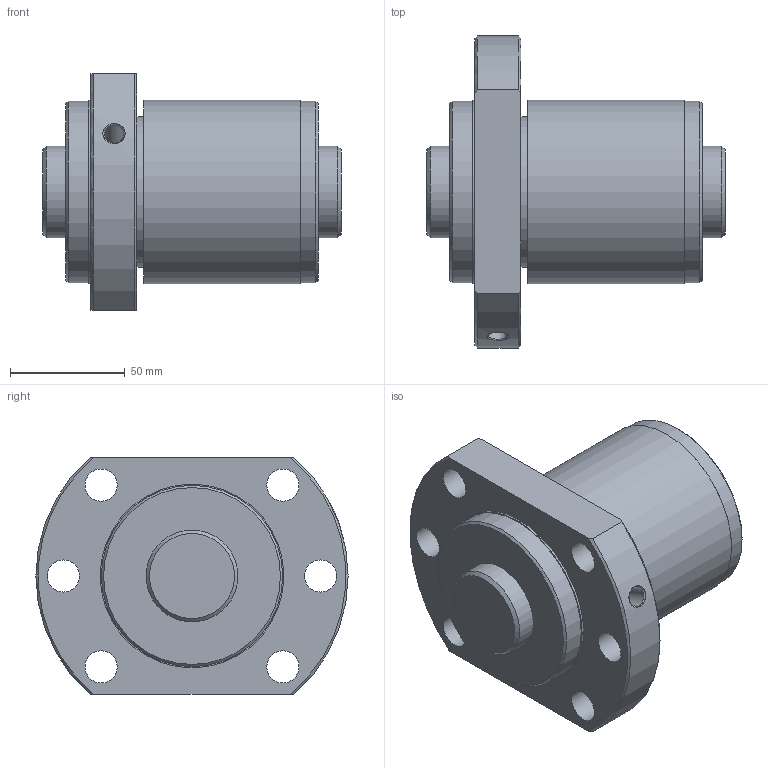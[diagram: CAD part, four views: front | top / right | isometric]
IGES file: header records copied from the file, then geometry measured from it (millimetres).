
Start section: Data from Parasolid IGES Translator 26.0.171, Copyright(c) 2006 Siemens PLM Software. All Rights Reserved.
Global section: file name: SBK4020-7.6RRG0+130LC0(0000).igs; native system: By Siemens PLM Incorporated; preprocessor: XPlus GENERIC/IGES 26.0.171; author: Noname; organization: Noname; date: 20240528.112012; units: millimetre
Bounding box: 130 x 136 x 103 mm (x, y, z)
Surface area: 92712.7 mm2 (no closed solid volume)
Topology: 0 solids, 0 shells, 37 faces, 167 edges, 147 vertices
Faces by surface type: revolution 26, extrusion 11
